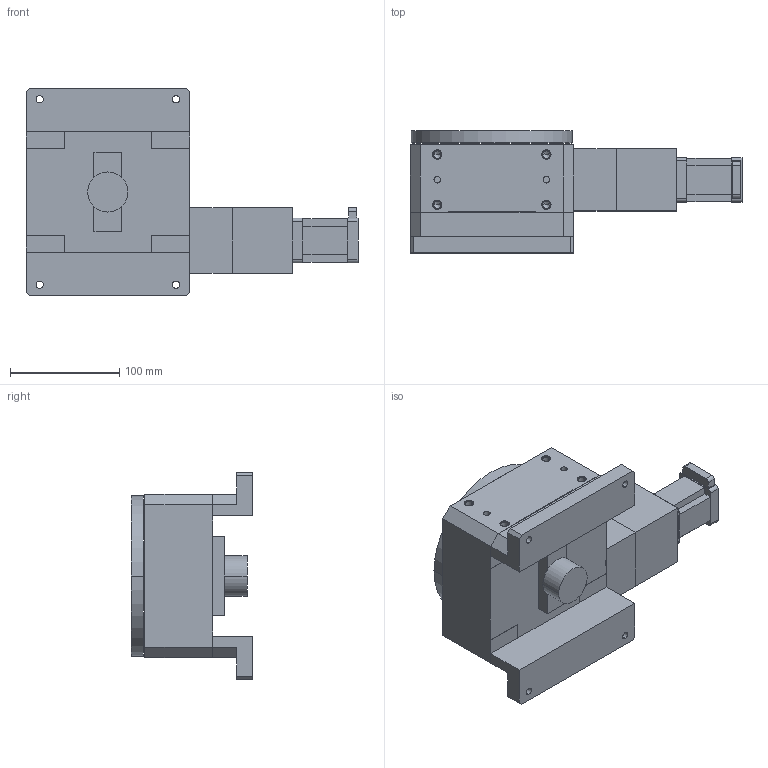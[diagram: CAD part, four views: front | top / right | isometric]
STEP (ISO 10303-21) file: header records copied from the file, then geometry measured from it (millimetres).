
FILE_DESCRIPTION((''),'2;1');
FILE_NAME('R150M7MP1E1_ASM','2009-07-02T',('FK20128'),(''),'PRO/ENGINEER BY PARAMETRIC TECHNOLOGY CORPORATION, 2006200','PRO/ENGINEER BY PARAMETRIC TECHNOLOGY CORPORATION, 2006200','');
FILE_SCHEMA(('CONFIG_CONTROL_DESIGN'));
Length unit declared in the file: millimetre
Products named in the file (8): R150M; R150M-M16; RXXXM-BE163; R150M-ENCODER-BRKT; R150M-ENCODER-STANDOFF; RXXXM-ENCODER; R150M-E1_ASM; R150M7MP1E1_ASM
Assembly tree (8 placements, depth 3):
  R150M7MP1E1_ASM
    R150M
    R150M-M16
    RXXXM-BE163
    R150M-E1_ASM
      R150M-ENCODER-BRKT
      R150M-ENCODER-STANDOFF  x2
      RXXXM-ENCODER
Bounding box: 304.32 x 111.83 x 190 mm (x, y, z)
Volume: 2250157.2 mm3; surface area: 252506.4 mm2
Topology: 8 solids, 32 shells, 371 faces, 911 edges, 600 vertices
Faces by surface type: cylinder 190, plane 147, cone 34
Entity records: 10412 total; most frequent: DIRECTION 1965, CARTESIAN_POINT 1738, ORIENTED_EDGE 1546, EDGE_CURVE 817, AXIS2_PLACEMENT_3D 779, VERTEX_POINT 552, EDGE_LOOP 451, CIRCLE 410
